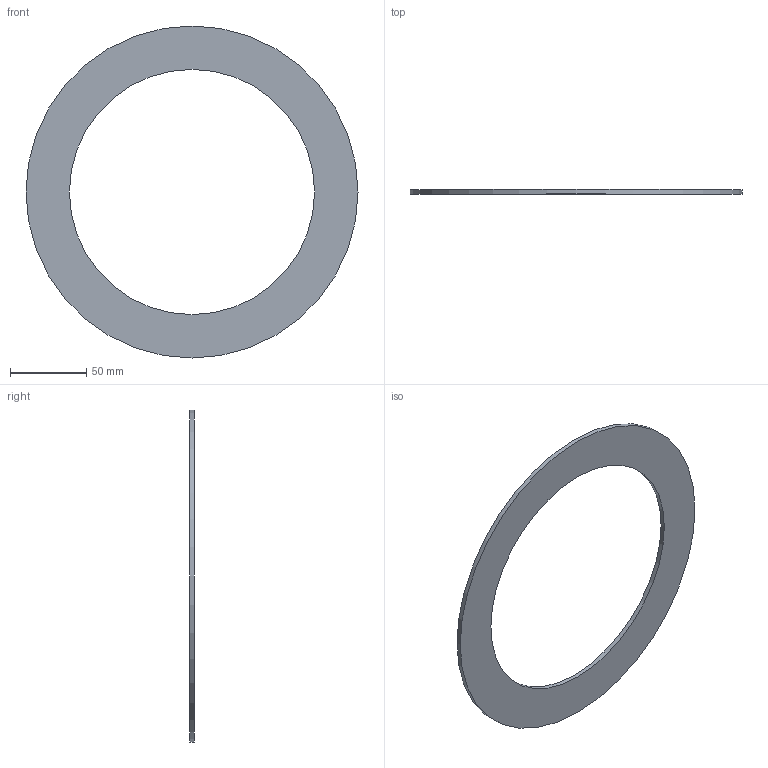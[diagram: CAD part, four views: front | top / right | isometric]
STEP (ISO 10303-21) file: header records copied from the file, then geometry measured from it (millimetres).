
FILE_DESCRIPTION(/* description */ ('Unknown'),/* implementation_level */ '2;1');
FILE_NAME(/* name */ 'GUA.180B',/* time_stamp */ '2021-04-01T12:26:56+02:00',/* author */ ('Unknown'),/* organization */ ('Unknown'),/* preprocessor_version */ 'ST-DEVELOPER v16.7',/* originating_system */ 'Solid Edge',/* authorisation */ 'Unknown');
FILE_SCHEMA (('AUTOMOTIVE_DESIGN {1 0 10303 214 3 1 1}'));
Length unit declared in the file: millimetre
Products named in the file (1): GUA.180B
Bounding box: 218 x 3 x 218 mm (x, y, z)
Volume: 50900.9 mm3; surface area: 37505.9 mm2
Topology: 1 solids, 1 shells, 4 faces, 6 edges, 4 vertices
Faces by surface type: cylinder 2, plane 2
Full cylindrical faces by diameter (mm): 161 x1, 218 x1
Entity records: 118 total; most frequent: DIRECTION 18, CARTESIAN_POINT 13, AXIS2_PLACEMENT_3D 9, ORIENTED_EDGE 8, EDGE_LOOP 8, FACE_BOUND 8, EDGE_CURVE 4, VERTEX_POINT 4
